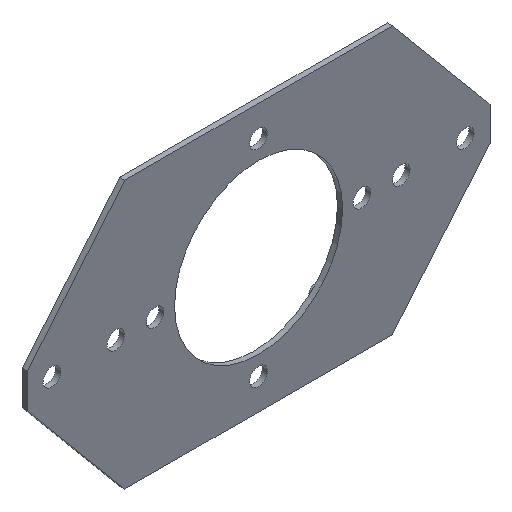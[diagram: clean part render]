
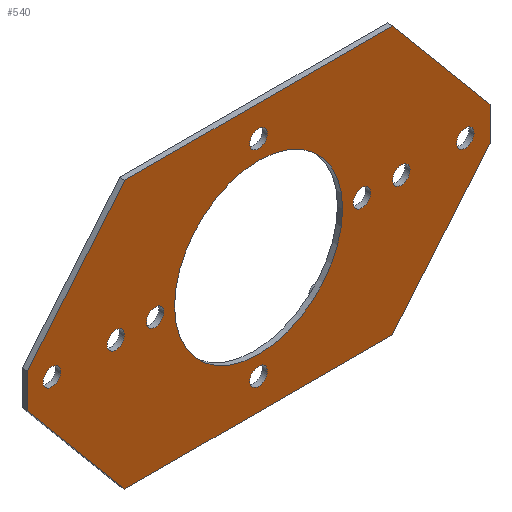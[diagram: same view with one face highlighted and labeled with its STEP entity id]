
A CAD part, isometric view. The second image highlights one B-rep face of the part: STEP entity #540.
In plain terms, the highlighted planar face has unit normal (0, -1, 0).
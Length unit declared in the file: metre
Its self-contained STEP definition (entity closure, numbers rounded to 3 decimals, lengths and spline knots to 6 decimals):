
#12=LINE('',#833,#36);
#16=LINE('',#842,#40);
#19=LINE('',#848,#43);
#22=LINE('',#854,#46);
#25=LINE('',#860,#49);
#28=LINE('',#866,#52);
#31=LINE('',#872,#55);
#34=LINE('',#918,#58);
#36=VECTOR('',#684,1.);
#40=VECTOR('',#690,1.);
#43=VECTOR('',#695,1.);
#46=VECTOR('',#700,1.);
#49=VECTOR('',#705,1.);
#52=VECTOR('',#710,1.);
#55=VECTOR('',#715,1.);
#58=VECTOR('',#768,1.);
#75=PLANE('',#620);
#172=ORIENTED_EDGE('',*,*,#208,.T.);
#173=ORIENTED_EDGE('',*,*,#246,.F.);
#174=ORIENTED_EDGE('',*,*,#227,.T.);
#175=ORIENTED_EDGE('',*,*,#224,.T.);
#176=ORIENTED_EDGE('',*,*,#221,.F.);
#177=ORIENTED_EDGE('',*,*,#218,.F.);
#178=ORIENTED_EDGE('',*,*,#215,.T.);
#179=ORIENTED_EDGE('',*,*,#212,.T.);
#180=ORIENTED_EDGE('',*,*,#245,.T.);
#181=ORIENTED_EDGE('',*,*,#243,.T.);
#182=ORIENTED_EDGE('',*,*,#241,.T.);
#183=ORIENTED_EDGE('',*,*,#239,.T.);
#184=ORIENTED_EDGE('',*,*,#237,.T.);
#185=ORIENTED_EDGE('',*,*,#235,.F.);
#186=ORIENTED_EDGE('',*,*,#233,.F.);
#187=ORIENTED_EDGE('',*,*,#231,.F.);
#188=ORIENTED_EDGE('',*,*,#249,.F.);
#208=EDGE_CURVE('',#266,#267,#12,.T.);
#212=EDGE_CURVE('',#270,#266,#16,.T.);
#215=EDGE_CURVE('',#272,#270,#19,.T.);
#218=EDGE_CURVE('',#272,#274,#22,.T.);
#221=EDGE_CURVE('',#274,#276,#25,.T.);
#224=EDGE_CURVE('',#278,#276,#28,.T.);
#227=EDGE_CURVE('',#280,#278,#31,.T.);
#231=EDGE_CURVE('',#283,#283,#317,.T.);
#233=EDGE_CURVE('',#285,#285,#319,.T.);
#235=EDGE_CURVE('',#287,#287,#321,.T.);
#237=EDGE_CURVE('',#289,#289,#323,.T.);
#239=EDGE_CURVE('',#291,#291,#325,.T.);
#241=EDGE_CURVE('',#293,#293,#327,.T.);
#243=EDGE_CURVE('',#295,#295,#329,.T.);
#245=EDGE_CURVE('',#297,#297,#331,.T.);
#246=EDGE_CURVE('',#280,#267,#34,.T.);
#249=EDGE_CURVE('',#299,#299,#333,.T.);
#266=VERTEX_POINT('',#834);
#267=VERTEX_POINT('',#835);
#270=VERTEX_POINT('',#843);
#272=VERTEX_POINT('',#849);
#274=VERTEX_POINT('',#855);
#276=VERTEX_POINT('',#861);
#278=VERTEX_POINT('',#867);
#280=VERTEX_POINT('',#873);
#283=VERTEX_POINT('',#881);
#285=VERTEX_POINT('',#886);
#287=VERTEX_POINT('',#891);
#289=VERTEX_POINT('',#896);
#291=VERTEX_POINT('',#901);
#293=VERTEX_POINT('',#906);
#295=VERTEX_POINT('',#911);
#297=VERTEX_POINT('',#916);
#299=VERTEX_POINT('',#924);
#317=CIRCLE('',#593,0.00255);
#319=CIRCLE('',#596,0.00255);
#321=CIRCLE('',#599,0.00255);
#323=CIRCLE('',#602,0.00255);
#325=CIRCLE('',#605,0.00255);
#327=CIRCLE('',#608,0.00255);
#329=CIRCLE('',#611,0.00255);
#331=CIRCLE('',#614,0.0245);
#333=CIRCLE('',#618,0.00255);
#399=EDGE_LOOP('',(#172,#173,#174,#175,#176,#177,#178,#179));
#400=EDGE_LOOP('',(#180));
#401=EDGE_LOOP('',(#181));
#402=EDGE_LOOP('',(#182));
#403=EDGE_LOOP('',(#183));
#404=EDGE_LOOP('',(#184));
#405=EDGE_LOOP('',(#185));
#406=EDGE_LOOP('',(#186));
#407=EDGE_LOOP('',(#187));
#408=EDGE_LOOP('',(#188));
#477=FACE_BOUND('',#399,.T.);
#478=FACE_BOUND('',#400,.T.);
#479=FACE_BOUND('',#401,.T.);
#480=FACE_BOUND('',#402,.T.);
#481=FACE_BOUND('',#403,.T.);
#482=FACE_BOUND('',#404,.T.);
#483=FACE_BOUND('',#405,.T.);
#484=FACE_BOUND('',#406,.T.);
#485=FACE_BOUND('',#407,.T.);
#486=FACE_BOUND('',#408,.T.);
#540=ADVANCED_FACE('',(#477,#478,#479,#480,#481,#482,#483,#484,#485,#486),
#75,.F.);
#593=AXIS2_PLACEMENT_3D('',#880,#722,#723);
#596=AXIS2_PLACEMENT_3D('',#885,#728,#729);
#599=AXIS2_PLACEMENT_3D('',#890,#734,#735);
#602=AXIS2_PLACEMENT_3D('',#895,#740,#741);
#605=AXIS2_PLACEMENT_3D('',#900,#746,#747);
#608=AXIS2_PLACEMENT_3D('',#905,#752,#753);
#611=AXIS2_PLACEMENT_3D('',#910,#758,#759);
#614=AXIS2_PLACEMENT_3D('',#915,#764,#765);
#618=AXIS2_PLACEMENT_3D('',#923,#774,#775);
#620=AXIS2_PLACEMENT_3D('',#926,#778,#779);
#684=DIRECTION('',(0.,0.,1.));
#690=DIRECTION('',(0.642,0.,0.766));
#695=DIRECTION('',(1.,0.,0.));
#700=DIRECTION('',(-0.642,0.,0.766));
#705=DIRECTION('',(0.,0.,1.));
#710=DIRECTION('',(-0.642,0.,-0.766));
#715=DIRECTION('',(-1.,0.,0.));
#722=DIRECTION('',(0.,-1.,0.));
#723=DIRECTION('',(1.,0.,0.));
#728=DIRECTION('',(0.,-1.,0.));
#729=DIRECTION('',(1.,0.,0.));
#734=DIRECTION('',(0.,-1.,0.));
#735=DIRECTION('',(1.,0.,0.));
#740=DIRECTION('',(0.,1.,0.));
#741=DIRECTION('',(1.,0.,0.));
#746=DIRECTION('',(0.,1.,0.));
#747=DIRECTION('',(1.,0.,0.));
#752=DIRECTION('',(0.,1.,0.));
#753=DIRECTION('',(1.,0.,0.));
#758=DIRECTION('',(0.,1.,0.));
#759=DIRECTION('',(1.,0.,0.));
#764=DIRECTION('',(0.,1.,0.));
#765=DIRECTION('',(1.,0.,0.));
#768=DIRECTION('',(0.642,0.,-0.766));
#774=DIRECTION('',(0.,-1.,0.));
#775=DIRECTION('',(1.,0.,0.));
#778=DIRECTION('',(0.,1.,0.));
#779=DIRECTION('',(1.,0.,0.));
#833=CARTESIAN_POINT('',(0.0675,0.,-0.0025));
#834=CARTESIAN_POINT('',(0.0675,0.,-0.005));
#835=CARTESIAN_POINT('',(0.0675,0.,0.005));
#842=CARTESIAN_POINT('',(0.05325,0.,-0.022));
#843=CARTESIAN_POINT('',(0.039,0.,-0.039));
#848=CARTESIAN_POINT('',(0.0195,0.,-0.039));
#849=CARTESIAN_POINT('',(-0.039,0.,-0.039));
#854=CARTESIAN_POINT('',(-0.05325,0.,-0.022));
#855=CARTESIAN_POINT('',(-0.0675,0.,-0.005));
#860=CARTESIAN_POINT('',(-0.0675,0.,-0.0025));
#861=CARTESIAN_POINT('',(-0.0675,0.,0.005));
#866=CARTESIAN_POINT('',(-0.05325,0.,0.022));
#867=CARTESIAN_POINT('',(-0.039,0.,0.039));
#872=CARTESIAN_POINT('',(-0.0195,0.,0.039));
#873=CARTESIAN_POINT('',(0.039,0.,0.039));
#880=CARTESIAN_POINT('',(-0.0603,0.,0.));
#881=CARTESIAN_POINT('',(-0.05775,0.,0.));
#885=CARTESIAN_POINT('',(0.,0.,0.03));
#886=CARTESIAN_POINT('',(0.00255,0.,0.03));
#890=CARTESIAN_POINT('',(-0.04165,0.,0.));
#891=CARTESIAN_POINT('',(-0.0391,0.,0.));
#895=CARTESIAN_POINT('',(0.,0.,-0.03));
#896=CARTESIAN_POINT('',(0.00255,0.,-0.03));
#900=CARTESIAN_POINT('',(0.0603,0.,0.));
#901=CARTESIAN_POINT('',(0.06285,0.,0.));
#905=CARTESIAN_POINT('',(0.04165,0.,0.));
#906=CARTESIAN_POINT('',(0.0442,0.,0.));
#910=CARTESIAN_POINT('',(0.03015,0.,0.));
#911=CARTESIAN_POINT('',(0.0327,0.,0.));
#915=CARTESIAN_POINT('',(0.,0.,0.));
#916=CARTESIAN_POINT('',(0.0245,0.,0.));
#918=CARTESIAN_POINT('',(0.05325,0.,0.022));
#923=CARTESIAN_POINT('',(-0.03015,0.,0.));
#924=CARTESIAN_POINT('',(-0.0276,0.,0.));
#926=CARTESIAN_POINT('',(0.,0.,0.));
